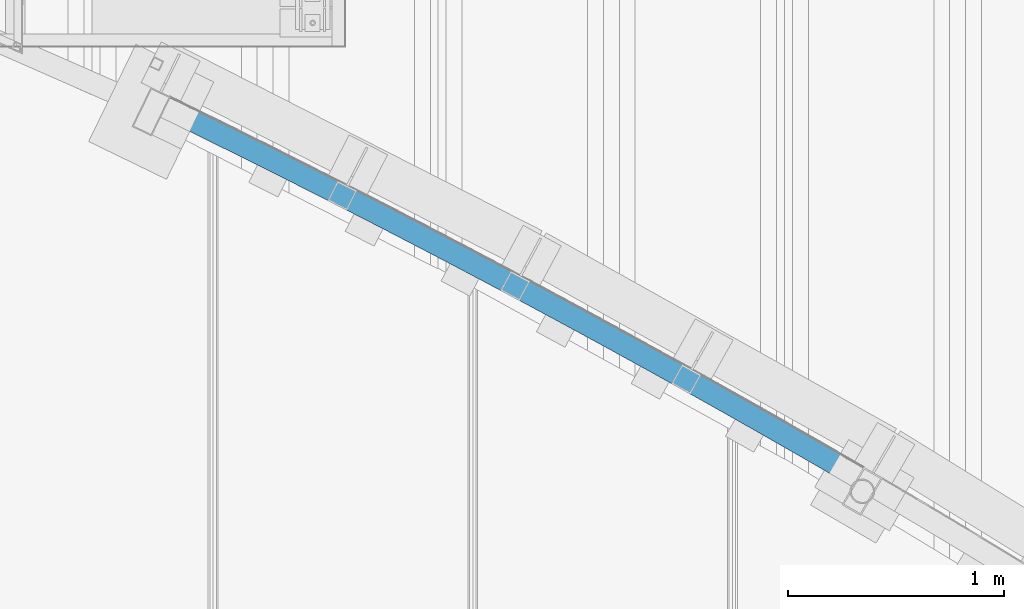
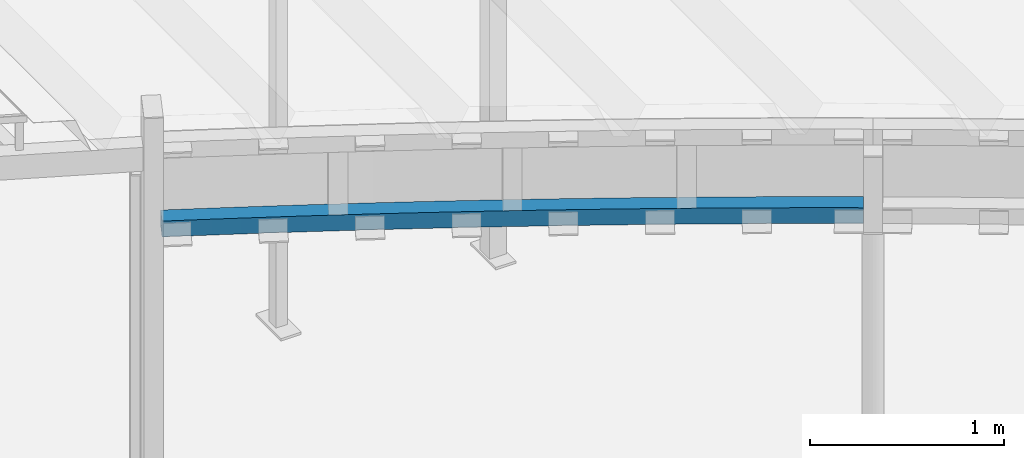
# One storey, part 19 of 98: 1 beam.
"""IFC2X3 building model written with IfcOpenShell, lengths in millimetres."""

from ifc_helpers import new_model, entity, si_unit, converted_unit, derived_unit, direction, frame, origin_with_axes, place, context, subcontext, project, spatial, faceted_brep, material, type_object, element, save


model = new_model("IFC2X3")

# Units and contexts
model_context = context("Model", 3, precision=0.01, world=frame((0.0, 4.29681676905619e-09, 0.0)), true_north=direction((4.01073788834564e-13, 1.0)))
plan_context = context("Plan", 3, precision=0.01, world=frame((0.0, 4.29681676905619e-09, 0.0)), true_north=direction((4.01073788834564e-13, 1.0)))
body_context = subcontext(model_context, "Body", "Model", "MODEL_VIEW")
ifc_project = project(units=[converted_unit("PLANEANGLEUNIT", "DEGREE", entity("IfcPositiveLengthMeasure", 0.0174532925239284), si_unit("PLANEANGLEUNIT", "RADIAN"), dimensions=[0, 0, 0, 0, 0, 0, 0]), si_unit("AREAUNIT", "SQUARE_METRE"), si_unit("LENGTHUNIT", "METRE", prefix="MILLI"), si_unit("MASSUNIT", "GRAM", prefix="KILO"), si_unit("POWERUNIT", "WATT"), si_unit("PRESSUREUNIT", "PASCAL"), si_unit("FORCEUNIT", "NEWTON", prefix="KILO"), si_unit("ELECTRICCURRENTUNIT", "AMPERE"), si_unit("THERMODYNAMICTEMPERATUREUNIT", "DEGREE_CELSIUS"), si_unit("TIMEUNIT", "SECOND"), si_unit("VOLUMEUNIT", "CUBIC_METRE"), derived_unit("LINEARVELOCITYUNIT", [(si_unit("LENGTHUNIT", "METRE"), 1), (si_unit("TIMEUNIT", "SECOND"), -1)]), derived_unit("VOLUMETRICFLOWRATEUNIT", [(si_unit("VOLUMEUNIT", "CUBIC_METRE"), 1), (si_unit("TIMEUNIT", "SECOND"), -1)]), derived_unit("THERMALTRANSMITTANCEUNIT", [(si_unit("POWERUNIT", "WATT"), 1), (si_unit("THERMODYNAMICTEMPERATUREUNIT", "KELVIN"), -1), (si_unit("AREAUNIT", "SQUARE_METRE"), -1)])], contexts=[model_context, plan_context])

# Site, building, storey
site_placement = place(None, frame((0.0, -4.29681676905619e-09, 0.0), z_axis=(0.0, 0.0, 1.0), x_axis=(1.0, 0.0, 0.0)))
site = spatial("IfcSite", under=ifc_project, at=site_placement, Name="Gardermoen", CompositionType="ELEMENT")
building_placement = place(site_placement, frame((0.0, 4.29681676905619e-09, 0.0), z_axis=(0.0, 0.0, 1.0), x_axis=(1.0, 0.0, 0.0)))
building = spatial("IfcBuilding", under=site, at=building_placement, Name="TS", CompositionType="ELEMENT")
storey_placement = place(building_placement, origin_with_axes())
storey = spatial("IfcBuildingStorey", under=building, at=storey_placement, Name="D", CompositionType="ELEMENT", Elevation=0.0)

# Beam
ifc_material = material(Name="STEEL/S355")
beam_type = type_object("IfcBeamType", Name="RHS100*6.3", PredefinedType="NOTDEFINED")
beam_placement = place(storey_placement, frame((516734.114608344, 412371.056030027, 206555.0), z_axis=(0.0, 0.0, 1.0), x_axis=(0.881699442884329, -0.471811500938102, 0.0)))
element("IfcBeam", 1, at=beam_placement, inside=storey, type_object=beam_type, material=ifc_material, Name="STÅLBJELKE", ObjectType="RHS100*6.3", context=body_context, shape_type="Brep", body=[
    faceted_brep([(78.3006283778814, -47.0121591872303, -50.0), (74.518780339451, 52.9163033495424, -50.0), (151.011860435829, 55.7508622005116, -50.0), (154.636203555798, -44.1834369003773, -50.0), (227.509281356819, 58.4648508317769, -50.0), (230.976108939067, -41.475036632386, -50.0), (304.010884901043, 61.0582649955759, -50.0), (307.320188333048, -38.8869625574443, -50.0), (380.516481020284, 63.5310982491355, -50.0), (383.668252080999, -36.419221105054, -50.0), (457.025879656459, 65.8833444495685, -50.0), (460.020110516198, -34.0718184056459, -50.0), (533.538890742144, 68.1149977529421, -50.0), (536.375573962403, -31.8447602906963, -50.0), (610.055324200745, 70.2260526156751, -50.0), (612.734452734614, -29.7380522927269, -50.0), (686.574989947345, 72.2165037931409, -50.0), (689.096557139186, -27.7516996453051, -50.0), (763.097697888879, 74.0863463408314, -50.0), (765.461697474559, -25.8857072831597, -50.0), (839.623257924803, 75.835575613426, -50.0), (841.829684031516, -24.1400798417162, -50.0), (916.151479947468, 77.4641872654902, -50.0), (918.200327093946, -22.5148216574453, -50.0), (992.682173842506, 78.9721772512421, -50.0), (994.573436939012, -21.0099367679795, -50.0), (1069.21514948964, 80.3595418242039, -50.0), (1070.94882383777, -19.6254289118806, -50.0), (1145.75021676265, 81.6262775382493, -50.0), (1147.32629805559, -18.3613015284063, -50.0), (1222.28718553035, 82.7723812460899, -50.0), (1223.70566985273, -17.2175577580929, -50.0), (1298.82586565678, 83.7978501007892, -50.0), (1300.08674948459, -16.194200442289, -50.0), (1375.36606700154, 84.702681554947, -50.0), (1376.46934720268, -15.2912321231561, -50.0), (1451.90759942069, 85.4868733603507, -50.0), (1452.85327325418, -14.5086550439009, -50.0), (1528.45027276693, 86.1504235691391, -50.0), (1529.23833788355, -13.8464711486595, -50.0), (1604.99389688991, 86.6933305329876, -50.0), (1605.62435133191, -13.3046820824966, -50.0), (1681.53828163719, 87.1155929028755, -50.0), (1682.01112383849, -12.8832891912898, -50.0), (1758.08323685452, 87.4172096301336, -50.0), (1758.39846564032, -12.5822935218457, -50.0), (1834.62857238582, 87.59817996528, -50.0), (1834.78618697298, -12.4016958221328, -50.0), (1911.17409807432, 87.6585034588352, -50.0), (1911.17409807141, -12.3414965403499, -50.0), (1987.71962376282, 87.5981799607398, -50.0), (1987.56200916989, -12.4016958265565, -50.0), (2064.26495929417, 87.4172096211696, -50.0), (2063.94973050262, -12.5822935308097, -50.0), (2140.80991451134, 87.1155928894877, -50.0), (2140.33707230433, -12.8832892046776, -50.0), (2217.35429925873, 86.6933305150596, -50.0), (2216.72384481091, -13.3046821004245, -50.0), (2293.89792338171, 86.1504235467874, -50.0), (2293.10985825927, -13.8464711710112, -50.0), (2370.44059672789, 85.4868733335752, -50.0), (2369.49492288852, -14.5086550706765, -50.0), (2446.98212914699, 84.7026815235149, -50.0), (2445.87884894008, -15.291232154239, -50.0), (2523.52233049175, 83.7978500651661, -50.0), (2522.261446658, -16.1942004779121, -50.0), (2600.06101061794, 82.7723812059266, -50.0), (2598.64252628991, -17.2175577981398, -50.0), (2676.59797938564, 81.6262774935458, -50.0), (2675.02189808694, -18.3613015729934, -50.0), (2753.13304665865, 80.3595417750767, -50.0), (2751.39937230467, -19.6254289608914, -50.0), (2829.66602230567, 78.9721771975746, -50.0), (2827.77475920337, -21.0099368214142, -50.0), (2906.19671620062, 77.4641872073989, -50.0), (2904.14786904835, -22.5148217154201, -50.0), (2982.7249382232, 75.835575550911, -50.0), (2980.51851211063, -24.1400799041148, -50.0), (3059.25049825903, 74.0863462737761, -50.0), (3056.88649866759, -25.8857073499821, -50.0), (3135.77320620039, 72.2165037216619, -50.0), (3133.25163900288, -27.7516997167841, -50.0), (3212.29287194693, 70.2260525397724, -50.0), (3209.61374340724, -29.7380523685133, -50.0), (3288.80930540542, 68.1149976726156, -50.0), (3285.97262217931, -31.8447603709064, -50.0), (3365.32231649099, 65.8833443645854, -50.0), (3362.32808562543, -34.0718184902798, -50.0), (3441.83171512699, 63.531098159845, -50.0), (3438.67994406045, -36.4192211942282, -50.0), (3518.33731124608, 61.0582649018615, -50.0), (3515.02800780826, -38.8869626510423, -50.0), (3594.83891479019, 58.4648507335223, -50.0), (3591.37208720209, -41.4750367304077, -50.0), (3671.33633571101, 55.7508620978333, -50.0), (3667.71199258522, -44.1834370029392, -50.0), (3594.83891479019, 58.4648507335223, 50.0), (3671.33633571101, 55.7508620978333, 50.0), (3518.33731124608, 61.0582649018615, 50.0), (3441.83171512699, 63.531098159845, 50.0), (3365.32231649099, 65.8833443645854, 50.0), (3288.80930540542, 68.1149976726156, 50.0), (3212.29287194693, 70.2260525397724, 50.0), (3135.77320620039, 72.2165037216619, 50.0), (3059.25049825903, 74.0863462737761, 50.0), (2982.7249382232, 75.835575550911, 50.0), (2906.19671620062, 77.4641872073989, 50.0), (2829.66602230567, 78.9721771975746, 50.0), (2753.13304665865, 80.3595417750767, 50.0), (2676.59797938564, 81.6262774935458, 50.0), (2600.06101061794, 82.7723812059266, 50.0), (2523.52233049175, 83.7978500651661, 50.0), (2446.98212914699, 84.7026815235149, 50.0), (2370.44059672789, 85.4868733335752, 50.0), (2293.89792338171, 86.1504235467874, 50.0), (2217.35429925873, 86.6933305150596, 50.0), (2140.80991451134, 87.1155928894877, 50.0), (2064.26495929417, 87.4172096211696, 50.0), (1987.71962376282, 87.5981799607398, 50.0), (1911.17409807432, 87.6585034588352, 50.0), (1834.62857238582, 87.59817996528, 50.0), (1758.08323685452, 87.4172096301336, 50.0), (1681.53828163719, 87.1155929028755, 50.0), (1604.99389688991, 86.6933305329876, 50.0), (1528.45027276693, 86.1504235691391, 50.0), (1451.90759942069, 85.4868733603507, 50.0), (1375.36606700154, 84.702681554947, 50.0), (1298.82586565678, 83.7978501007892, 50.0), (1222.28718553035, 82.7723812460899, 50.0), (1145.75021676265, 81.6262775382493, 50.0), (1069.21514948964, 80.3595418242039, 50.0), (992.682173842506, 78.9721772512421, 50.0), (916.151479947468, 77.4641872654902, 50.0), (839.623257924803, 75.835575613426, 50.0), (763.097697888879, 74.0863463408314, 50.0), (686.574989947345, 72.2165037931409, 50.0), (610.055324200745, 70.2260526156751, 50.0), (533.538890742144, 68.1149977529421, 50.0), (457.025879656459, 65.8833444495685, 50.0), (380.516481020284, 63.5310982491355, 50.0), (304.010884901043, 61.0582649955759, 50.0), (227.509281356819, 58.4648508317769, 50.0), (151.011860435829, 55.7508622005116, 50.0), (74.518780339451, 52.9163033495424, 50.0), (78.3006283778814, -47.0121591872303, 50.0), (154.636203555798, -44.1834369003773, 50.0), (230.976108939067, -41.475036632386, 50.0), (307.320188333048, -38.8869625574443, 50.0), (383.668252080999, -36.419221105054, 50.0), (460.020110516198, -34.0718184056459, 50.0), (536.375573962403, -31.8447602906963, 50.0), (612.734452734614, -29.7380522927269, 50.0), (689.096557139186, -27.7516996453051, 50.0), (765.461697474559, -25.8857072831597, 50.0), (841.829684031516, -24.1400798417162, 50.0), (918.200327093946, -22.5148216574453, 50.0), (994.573436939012, -21.0099367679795, 50.0), (1070.94882383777, -19.6254289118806, 50.0), (1147.32629805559, -18.3613015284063, 50.0), (1223.70566985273, -17.2175577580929, 50.0), (1300.08674948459, -16.194200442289, 50.0), (1376.46934720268, -15.2912321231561, 50.0), (1452.85327325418, -14.5086550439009, 50.0), (1529.23833788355, -13.8464711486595, 50.0), (1605.62435133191, -13.3046820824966, 50.0), (1682.01112383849, -12.8832891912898, 50.0), (1758.39846564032, -12.5822935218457, 50.0), (1834.78618697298, -12.4016958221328, 50.0), (1911.17409807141, -12.3414965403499, 50.0), (1987.56200916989, -12.4016958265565, 50.0), (2063.94973050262, -12.5822935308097, 50.0), (2140.33707230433, -12.8832892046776, 50.0), (2216.72384481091, -13.3046821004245, 50.0), (2293.10985825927, -13.8464711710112, 50.0), (2369.49492288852, -14.5086550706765, 50.0), (2445.87884894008, -15.291232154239, 50.0), (2522.261446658, -16.1942004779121, 50.0), (2598.64252628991, -17.2175577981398, 50.0), (2675.02189808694, -18.3613015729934, 50.0), (2751.39937230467, -19.6254289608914, 50.0), (2827.77475920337, -21.0099368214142, 50.0), (2904.14786904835, -22.5148217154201, 50.0), (2980.51851211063, -24.1400799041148, 50.0), (3056.88649866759, -25.8857073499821, 50.0), (3133.25163900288, -27.7516997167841, 50.0), (3209.61374340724, -29.7380523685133, 50.0), (3285.97262217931, -31.8447603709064, 50.0), (3362.32808562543, -34.0718184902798, 50.0), (3438.67994406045, -36.4192211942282, 50.0), (3515.02800780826, -38.8869626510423, 50.0), (3591.37208720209, -41.4750367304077, 50.0), (3667.71199258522, -44.1834370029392, 50.0), (3676.63476260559, -44.5140826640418, 50.0), (3680.2311997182, 55.4212505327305, 50.0), (3680.2311997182, 55.4212505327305, -50.0), (3676.63476260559, -44.5140826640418, -50.0), (51.9561177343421, -48.0299727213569, 50.0), (51.9561177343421, -48.0299727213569, -50.0), (48.0319689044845, 51.8929920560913, -50.0), (48.0319689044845, 51.8929920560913, 50.0), (74.7570367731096, 46.6208100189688, 43.6999998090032), (78.0623719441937, -40.7166658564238, 43.6999998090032), (51.708896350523, -41.7348257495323, 43.6999998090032), (48.2791902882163, 45.5978450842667, 43.6999998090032), (78.0623719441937, -40.7166658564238, -43.6999998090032), (74.7570367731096, 46.6208100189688, -43.6999998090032), (48.2791902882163, 45.5978450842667, -43.6999998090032), (51.708896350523, -41.7348257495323, -43.6999998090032), (151.240194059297, 49.4550011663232, -43.6999998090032), (151.240194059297, 49.4550011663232, 43.6999998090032), (154.407869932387, -37.8875758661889, 43.6999998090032), (154.407869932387, -37.8875758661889, -43.6999998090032), (230.757698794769, -35.1788235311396, -43.6999998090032), (227.727691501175, 52.1686377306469, -43.6999998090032), (227.727691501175, 52.1686377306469, 43.6999998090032), (230.757698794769, -35.1788235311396, 43.6999998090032), (307.111702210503, -32.5904130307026, 43.6999998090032), (307.111702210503, -32.5904130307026, -43.6999998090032), (304.219371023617, 54.7617154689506, -43.6999998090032), (304.219371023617, 54.7617154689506, 43.6999998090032), (380.715042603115, 57.2342279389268, 43.6999998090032), (383.469690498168, -30.1223507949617, 43.6999998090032), (383.469690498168, -30.1223507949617, -43.6999998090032), (380.715042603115, 57.2342279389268, -43.6999998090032), (457.214516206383, 59.586168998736, -43.6999998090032), (457.214516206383, 59.586168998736, 43.6999998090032), (459.831473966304, -27.7746429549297, 43.6999998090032), (459.831473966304, -27.7746429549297, -43.6999998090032), (536.196862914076, -25.5472953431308, -43.6999998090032), (533.717601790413, 61.8175328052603, -43.6999998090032), (533.717601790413, 61.8175328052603, 43.6999998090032), (536.196862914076, -25.5472953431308, 43.6999998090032), (612.565667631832, -23.4403134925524, 43.6999998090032), (612.565667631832, -23.4403134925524, -43.6999998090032), (610.224109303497, 63.9283138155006, -43.6999998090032), (610.224109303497, 63.9283138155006, 43.6999998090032), (686.733848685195, 65.9185067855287, 43.6999998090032), (688.937698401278, -21.4537026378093, 43.6999998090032), (688.937698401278, -21.4537026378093, -43.6999998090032), (686.733848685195, 65.9185067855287, -43.6999998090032), (763.246629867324, 67.7881067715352, -43.6999998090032), (763.246629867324, 67.7881067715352, 43.6999998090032), (765.312765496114, -19.5874677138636, 43.6999998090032), (765.312765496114, -19.5874677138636, -43.6999998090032), (841.690679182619, -17.8416133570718, -43.6999998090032), (839.762262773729, 69.537109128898, -43.6999998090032), (839.762262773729, 69.537109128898, 43.6999998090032), (841.690679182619, -17.8416133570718, 43.6999998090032), (918.071249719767, -16.2161439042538, 43.6999998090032), (918.071249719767, -16.2161439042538, -43.6999998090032), (916.280557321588, 71.1655095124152, -43.6999998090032), (916.280557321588, 71.1655095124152, 43.6999998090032), (992.801323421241, 72.6733038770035, 43.6999998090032), (994.454287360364, -14.7110633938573, 43.6999998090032), (994.454287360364, -14.7110633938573, -43.6999998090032), (992.801323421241, 72.6733038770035, -43.6999998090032), (1069.32437097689, 74.0604884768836, -43.6999998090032), (1069.32437097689, 74.0604884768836, 43.6999998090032), (1070.83960235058, -13.3263755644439, 43.6999998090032), (1070.83960235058, -13.3263755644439, -43.6999998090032), (1147.22700493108, -12.0620838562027, -43.6999998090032), (1145.84950988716, 75.3270598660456, -43.6999998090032), (1145.84950988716, 75.3270598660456, 43.6999998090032), (1147.22700493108, -12.0620838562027, 43.6999998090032), (1223.61630533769, -10.9181914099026, 43.6999998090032), (1223.61630533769, -10.9181914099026, -43.6999998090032), (1222.37655004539, 76.4730148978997, -43.6999998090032), (1222.37655004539, 76.4730148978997, 43.6999998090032), (1298.90530134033, 77.4983507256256, 43.6999998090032), (1300.00731380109, -9.89470106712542, 43.6999998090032), (1300.00731380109, -9.89470106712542, -43.6999998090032), (1298.90530134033, 77.4983507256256, -43.6999998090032), (1375.43557365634, 78.4030648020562, -43.6999998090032), (1375.43557365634, 78.4030648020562, 43.6999998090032), (1376.39984054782, -8.99161537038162, 43.6999998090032), (1376.39984054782, -8.99161537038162, -43.6999998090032), (1452.79369580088, -8.20893656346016, -43.6999998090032), (1451.96717687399, 79.1871548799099, -43.6999998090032), (1451.96717687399, 79.1871548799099, 43.6999998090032), (1452.79369580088, -8.20893656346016, 43.6999998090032), (1529.18868977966, -7.5466665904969, 43.6999998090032), (1529.18868977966, -7.5466665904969, -43.6999998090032), (1528.49992087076, 79.8506190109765, -43.6999998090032), (1528.49992087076, 79.8506190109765, 43.6999998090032), (1605.03361552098, 80.3934555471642, 43.6999998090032), (1605.58463270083, -7.00480709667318, 43.6999998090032), (1605.58463270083, -7.00480709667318, -43.6999998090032), (1605.03361552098, 80.3934555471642, -43.6999998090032), (1681.56807069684, 80.8156631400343, -43.6999998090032), (1681.56807069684, 80.8156631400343, 43.6999998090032), (1681.98133477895, -6.5833594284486, 43.6999998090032), (1681.98133477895, -6.5833594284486, -43.6999998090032), (1758.37860622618, -6.28232463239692, -43.6999998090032), (1758.10309626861, 81.117240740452, -43.6999998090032), (1758.10309626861, 81.117240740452, 43.6999998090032), (1758.37860622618, -6.28232463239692, 43.6999998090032), (1834.77625725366, -6.10170345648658, 43.6999998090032), (1834.77625725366, -6.10170345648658, -43.6999998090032), (1834.63850210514, 81.2981875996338, -43.6999998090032), (1834.63850210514, 81.2981875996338, 43.6999998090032), (1911.1740980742, 81.3585032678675, 43.6999998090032), (1911.17409807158, -6.04149634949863, 43.6999998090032), (1911.17409807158, -6.04149634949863, -43.6999998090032), (1911.1740980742, 81.3585032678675, -43.6999998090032), (1987.70969404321, 81.29818759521, -43.6999998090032), (1987.70969404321, 81.29818759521, 43.6999998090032), (1987.57193888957, -6.10170346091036, 43.6999998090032), (1987.57193888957, -6.10170346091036, -43.6999998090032), (2063.96958991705, -6.28232464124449, -43.6999998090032), (2064.24509987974, 81.1172407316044, -43.6999998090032), (2064.24509987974, 81.1172407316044, 43.6999998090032), (2063.96958991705, -6.28232464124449, 43.6999998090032), (2140.36686136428, -6.58335944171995, 43.6999998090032), (2140.36686136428, -6.58335944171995, -43.6999998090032), (2140.78012545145, 80.8156631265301, -43.6999998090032), (2140.78012545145, 80.8156631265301, 43.6999998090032), (2217.31458062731, 80.3934555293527, 43.6999998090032), (2216.76356344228, -7.00480711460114, 43.6999998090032), (2216.76356344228, -7.00480711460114, -43.6999998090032), (2217.31458062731, 80.3934555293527, -43.6999998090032), (2293.84827527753, 79.8506189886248, -43.6999998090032), (2293.84827527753, 79.8506189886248, 43.6999998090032), (2293.1595063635, -7.54666661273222, 43.6999998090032), (2293.1595063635, -7.54666661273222, -43.6999998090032), (2369.55450034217, -8.20893659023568, -43.6999998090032), (2370.38101927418, 79.187154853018, -43.6999998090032), (2370.38101927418, 79.187154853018, 43.6999998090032), (2369.55450034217, -8.20893659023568, 43.6999998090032), (2445.94835559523, -8.99161540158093, 43.6999998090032), (2445.94835559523, -8.99161540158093, -43.6999998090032), (2446.91262249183, 78.4030647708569, -43.6999998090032), (2446.91262249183, 78.4030647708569, 43.6999998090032), (2523.44289480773, 77.4983506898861, 43.6999998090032), (2522.3408823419, -9.89470110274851, 43.6999998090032), (2522.3408823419, -9.89470110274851, -43.6999998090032), (2523.44289480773, 77.4983506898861, -43.6999998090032), (2599.97164610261, 76.47301485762, -43.6999998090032), (2599.97164610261, 76.47301485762, 43.6999998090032), (2598.73189080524, -10.9181914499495, 43.6999998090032), (2598.73189080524, -10.9181914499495, -43.6999998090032), (2675.1211912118, -12.0620839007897, -43.6999998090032), (2676.49868626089, 75.3270598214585, -43.6999998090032), (2676.49868626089, 75.3270598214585, 43.6999998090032), (2675.1211912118, -12.0620839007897, 43.6999998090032), (2751.50859379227, -13.3263756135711, 43.6999998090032), (2751.50859379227, -13.3263756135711, -43.6999998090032), (2753.023825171, 74.0604884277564, -43.6999998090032), (2753.023825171, 74.0604884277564, 43.6999998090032), (2829.54687272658, 72.6733038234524, 43.6999998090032), (2827.8939087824, -14.711063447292, 43.6999998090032), (2827.8939087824, -14.711063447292, -43.6999998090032), (2829.54687272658, 72.6733038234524, -43.6999998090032), (2906.06763882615, 71.1655094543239, -43.6999998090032), (2906.06763882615, 71.1655094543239, 43.6999998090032), (2904.27694642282, -16.2161439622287, 43.6999998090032), (2904.27694642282, -16.2161439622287, -43.6999998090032), (2980.65751695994, -17.8416134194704, -43.6999998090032), (2982.58593337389, 69.5371090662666, -43.6999998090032), (2982.58593337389, 69.5371090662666, 43.6999998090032), (2980.65751695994, -17.8416134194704, 43.6999998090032), (3057.03543064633, -19.5874677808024, 43.6999998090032), (3057.03543064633, -19.5874677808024, -43.6999998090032), (3059.1015662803, 67.7881067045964, -43.6999998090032), (3059.1015662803, 67.7881067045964, 43.6999998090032), (3135.61434746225, 65.9185067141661, 43.6999998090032), (3133.41049774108, -21.4537027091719, 43.6999998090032), (3133.41049774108, -21.4537027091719, -43.6999998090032), (3135.61434746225, 65.9185067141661, -43.6999998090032), (3212.1240868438, 63.9283137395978, -43.6999998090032), (3212.1240868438, 63.9283137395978, 43.6999998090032), (3209.78252851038, -23.4403135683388, 43.6999998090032), (3209.78252851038, -23.4403135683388, -43.6999998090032), (3286.15133322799, -25.5472954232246, -43.6999998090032), (3288.63059435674, 61.8175327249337, -43.6999998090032), (3288.63059435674, 61.8175327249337, 43.6999998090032), (3286.15133322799, -25.5472954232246, 43.6999998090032), (3362.5167221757, -27.7746430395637, 43.6999998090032), (3362.5167221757, -27.7746430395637, -43.6999998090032), (3365.13367994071, 59.5861689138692, -43.6999998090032), (3365.13367994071, 59.5861689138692, 43.6999998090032), (3441.63315354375, 57.2342278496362, 43.6999998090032), (3438.87850564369, -30.1223508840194, 43.6999998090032), (3438.87850564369, -30.1223508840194, -43.6999998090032), (3441.63315354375, 57.2342278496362, -43.6999998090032), (3518.12882512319, 54.7617153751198, -43.6999998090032), (3518.12882512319, 54.7617153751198, 43.6999998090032), (3515.23649393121, -32.5904131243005, 43.6999998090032), (3515.23649393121, -32.5904131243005, -43.6999998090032), (3591.59049734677, -35.1788236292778, -43.6999998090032), (3594.62050464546, 52.1686376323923, -43.6999998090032), (3594.62050464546, 52.1686376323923, 43.6999998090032), (3591.59049734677, -35.1788236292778, 43.6999998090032), (3667.94032620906, -37.8875759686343, 43.6999998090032), (3667.94032620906, -37.8875759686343, -43.6999998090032), (3671.10800208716, 49.4550010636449, -43.6999998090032), (3671.10800208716, 49.4550010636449, 43.6999998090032), (3680.00462417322, 49.1253243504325, 43.6999998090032), (3676.86133815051, -38.2181564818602, 43.6999998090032), (3676.86133815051, -38.2181564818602, -43.6999998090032), (3680.00462417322, 49.1253243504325, -43.6999998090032)], [[[0, 1, 2, 3]], [[3, 2, 4, 5]], [[5, 4, 6, 7]], [[7, 6, 8, 9]], [[9, 8, 10, 11]], [[11, 10, 12, 13]], [[13, 12, 14, 15]], [[15, 14, 16, 17]], [[17, 16, 18, 19]], [[19, 18, 20, 21]], [[21, 20, 22, 23]], [[23, 22, 24, 25]], [[25, 24, 26, 27]], [[27, 26, 28, 29]], [[29, 28, 30, 31]], [[31, 30, 32, 33]], [[33, 32, 34, 35]], [[35, 34, 36, 37]], [[37, 36, 38, 39]], [[39, 38, 40, 41]], [[41, 40, 42, 43]], [[43, 42, 44, 45]], [[45, 44, 46, 47]], [[47, 46, 48, 49]], [[49, 48, 50, 51]], [[51, 50, 52, 53]], [[53, 52, 54, 55]], [[55, 54, 56, 57]], [[57, 56, 58, 59]], [[59, 58, 60, 61]], [[61, 60, 62, 63]], [[63, 62, 64, 65]], [[65, 64, 66, 67]], [[67, 66, 68, 69]], [[69, 68, 70, 71]], [[71, 70, 72, 73]], [[73, 72, 74, 75]], [[75, 74, 76, 77]], [[77, 76, 78, 79]], [[79, 78, 80, 81]], [[81, 80, 82, 83]], [[83, 82, 84, 85]], [[85, 84, 86, 87]], [[87, 86, 88, 89]], [[89, 88, 90, 91]], [[91, 90, 92, 93]], [[93, 92, 94, 95]], [[92, 96, 97, 94]], [[90, 98, 96, 92]], [[88, 99, 98, 90]], [[86, 100, 99, 88]], [[84, 101, 100, 86]], [[82, 102, 101, 84]], [[80, 103, 102, 82]], [[78, 104, 103, 80]], [[76, 105, 104, 78]], [[74, 106, 105, 76]], [[72, 107, 106, 74]], [[70, 108, 107, 72]], [[68, 109, 108, 70]], [[66, 110, 109, 68]], [[64, 111, 110, 66]], [[62, 112, 111, 64]], [[60, 113, 112, 62]], [[58, 114, 113, 60]], [[56, 115, 114, 58]], [[54, 116, 115, 56]], [[52, 117, 116, 54]], [[50, 118, 117, 52]], [[48, 119, 118, 50]], [[46, 120, 119, 48]], [[44, 121, 120, 46]], [[42, 122, 121, 44]], [[40, 123, 122, 42]], [[38, 124, 123, 40]], [[36, 125, 124, 38]], [[34, 126, 125, 36]], [[32, 127, 126, 34]], [[30, 128, 127, 32]], [[28, 129, 128, 30]], [[26, 130, 129, 28]], [[24, 131, 130, 26]], [[22, 132, 131, 24]], [[20, 133, 132, 22]], [[18, 134, 133, 20]], [[16, 135, 134, 18]], [[14, 136, 135, 16]], [[12, 137, 136, 14]], [[10, 138, 137, 12]], [[8, 139, 138, 10]], [[6, 140, 139, 8]], [[4, 141, 140, 6]], [[2, 142, 141, 4]], [[1, 143, 142, 2]], [[143, 144, 145, 142]], [[142, 145, 146, 141]], [[141, 146, 147, 140]], [[140, 147, 148, 139]], [[139, 148, 149, 138]], [[138, 149, 150, 137]], [[137, 150, 151, 136]], [[136, 151, 152, 135]], [[135, 152, 153, 134]], [[134, 153, 154, 133]], [[133, 154, 155, 132]], [[132, 155, 156, 131]], [[131, 156, 157, 130]], [[130, 157, 158, 129]], [[129, 158, 159, 128]], [[128, 159, 160, 127]], [[127, 160, 161, 126]], [[126, 161, 162, 125]], [[125, 162, 163, 124]], [[124, 163, 164, 123]], [[123, 164, 165, 122]], [[122, 165, 166, 121]], [[121, 166, 167, 120]], [[120, 167, 168, 119]], [[119, 168, 169, 118]], [[118, 169, 170, 117]], [[117, 170, 171, 116]], [[116, 171, 172, 115]], [[115, 172, 173, 114]], [[114, 173, 174, 113]], [[113, 174, 175, 112]], [[112, 175, 176, 111]], [[111, 176, 177, 110]], [[110, 177, 178, 109]], [[109, 178, 179, 108]], [[108, 179, 180, 107]], [[107, 180, 181, 106]], [[106, 181, 182, 105]], [[105, 182, 183, 104]], [[104, 183, 184, 103]], [[103, 184, 185, 102]], [[102, 185, 186, 101]], [[101, 186, 187, 100]], [[100, 187, 188, 99]], [[99, 188, 189, 98]], [[98, 189, 190, 96]], [[96, 190, 191, 97]], [[97, 191, 192, 193]], [[94, 97, 193, 194]], [[95, 94, 194, 195]], [[191, 95, 195, 192]], [[190, 93, 95, 191]], [[189, 91, 93, 190]], [[188, 89, 91, 189]], [[187, 87, 89, 188]], [[186, 85, 87, 187]], [[185, 83, 85, 186]], [[184, 81, 83, 185]], [[183, 79, 81, 184]], [[182, 77, 79, 183]], [[181, 75, 77, 182]], [[180, 73, 75, 181]], [[179, 71, 73, 180]], [[178, 69, 71, 179]], [[177, 67, 69, 178]], [[176, 65, 67, 177]], [[175, 63, 65, 176]], [[174, 61, 63, 175]], [[173, 59, 61, 174]], [[172, 57, 59, 173]], [[171, 55, 57, 172]], [[170, 53, 55, 171]], [[169, 51, 53, 170]], [[168, 49, 51, 169]], [[167, 47, 49, 168]], [[166, 45, 47, 167]], [[165, 43, 45, 166]], [[164, 41, 43, 165]], [[163, 39, 41, 164]], [[162, 37, 39, 163]], [[161, 35, 37, 162]], [[160, 33, 35, 161]], [[159, 31, 33, 160]], [[158, 29, 31, 159]], [[157, 27, 29, 158]], [[156, 25, 27, 157]], [[155, 23, 25, 156]], [[154, 21, 23, 155]], [[153, 19, 21, 154]], [[152, 17, 19, 153]], [[151, 15, 17, 152]], [[150, 13, 15, 151]], [[149, 11, 13, 150]], [[148, 9, 11, 149]], [[147, 7, 9, 148]], [[146, 5, 7, 147]], [[145, 3, 5, 146]], [[144, 0, 3, 145]], [[0, 144, 196, 197]], [[1, 0, 197, 198]], [[143, 1, 198, 199]], [[144, 143, 199, 196]], [[200, 201, 202, 203]], [[204, 205, 206, 207]], [[201, 204, 207, 202]], [[198, 197, 196, 199], [206, 203, 202, 207]], [[205, 200, 203, 206]], [[200, 205, 208, 209]], [[201, 200, 209, 210]], [[204, 201, 210, 211]], [[205, 204, 211, 208]], [[208, 211, 212, 213]], [[209, 208, 213, 214]], [[210, 209, 214, 215]], [[211, 210, 215, 212]], [[212, 215, 216, 217]], [[213, 212, 217, 218]], [[214, 213, 218, 219]], [[215, 214, 219, 216]], [[216, 219, 220, 221]], [[217, 216, 221, 222]], [[218, 217, 222, 223]], [[219, 218, 223, 220]], [[220, 223, 224, 225]], [[221, 220, 225, 226]], [[222, 221, 226, 227]], [[223, 222, 227, 224]], [[224, 227, 228, 229]], [[225, 224, 229, 230]], [[226, 225, 230, 231]], [[227, 226, 231, 228]], [[228, 231, 232, 233]], [[229, 228, 233, 234]], [[230, 229, 234, 235]], [[231, 230, 235, 232]], [[232, 235, 236, 237]], [[233, 232, 237, 238]], [[234, 233, 238, 239]], [[235, 234, 239, 236]], [[236, 239, 240, 241]], [[237, 236, 241, 242]], [[238, 237, 242, 243]], [[239, 238, 243, 240]], [[240, 243, 244, 245]], [[241, 240, 245, 246]], [[242, 241, 246, 247]], [[243, 242, 247, 244]], [[244, 247, 248, 249]], [[245, 244, 249, 250]], [[246, 245, 250, 251]], [[247, 246, 251, 248]], [[248, 251, 252, 253]], [[249, 248, 253, 254]], [[250, 249, 254, 255]], [[251, 250, 255, 252]], [[252, 255, 256, 257]], [[253, 252, 257, 258]], [[254, 253, 258, 259]], [[255, 254, 259, 256]], [[256, 259, 260, 261]], [[257, 256, 261, 262]], [[258, 257, 262, 263]], [[259, 258, 263, 260]], [[260, 263, 264, 265]], [[261, 260, 265, 266]], [[262, 261, 266, 267]], [[263, 262, 267, 264]], [[264, 267, 268, 269]], [[265, 264, 269, 270]], [[266, 265, 270, 271]], [[267, 266, 271, 268]], [[268, 271, 272, 273]], [[269, 268, 273, 274]], [[270, 269, 274, 275]], [[271, 270, 275, 272]], [[272, 275, 276, 277]], [[273, 272, 277, 278]], [[274, 273, 278, 279]], [[275, 274, 279, 276]], [[276, 279, 280, 281]], [[277, 276, 281, 282]], [[278, 277, 282, 283]], [[279, 278, 283, 280]], [[280, 283, 284, 285]], [[281, 280, 285, 286]], [[282, 281, 286, 287]], [[283, 282, 287, 284]], [[284, 287, 288, 289]], [[285, 284, 289, 290]], [[286, 285, 290, 291]], [[287, 286, 291, 288]], [[288, 291, 292, 293]], [[289, 288, 293, 294]], [[290, 289, 294, 295]], [[291, 290, 295, 292]], [[292, 295, 296, 297]], [[293, 292, 297, 298]], [[294, 293, 298, 299]], [[295, 294, 299, 296]], [[296, 299, 300, 301]], [[297, 296, 301, 302]], [[298, 297, 302, 303]], [[299, 298, 303, 300]], [[300, 303, 304, 305]], [[301, 300, 305, 306]], [[302, 301, 306, 307]], [[303, 302, 307, 304]], [[304, 307, 308, 309]], [[305, 304, 309, 310]], [[306, 305, 310, 311]], [[307, 306, 311, 308]], [[308, 311, 312, 313]], [[309, 308, 313, 314]], [[310, 309, 314, 315]], [[311, 310, 315, 312]], [[312, 315, 316, 317]], [[313, 312, 317, 318]], [[314, 313, 318, 319]], [[315, 314, 319, 316]], [[316, 319, 320, 321]], [[317, 316, 321, 322]], [[318, 317, 322, 323]], [[319, 318, 323, 320]], [[320, 323, 324, 325]], [[321, 320, 325, 326]], [[322, 321, 326, 327]], [[323, 322, 327, 324]], [[324, 327, 328, 329]], [[325, 324, 329, 330]], [[326, 325, 330, 331]], [[327, 326, 331, 328]], [[328, 331, 332, 333]], [[329, 328, 333, 334]], [[330, 329, 334, 335]], [[331, 330, 335, 332]], [[332, 335, 336, 337]], [[333, 332, 337, 338]], [[334, 333, 338, 339]], [[335, 334, 339, 336]], [[336, 339, 340, 341]], [[337, 336, 341, 342]], [[338, 337, 342, 343]], [[339, 338, 343, 340]], [[340, 343, 344, 345]], [[341, 340, 345, 346]], [[342, 341, 346, 347]], [[343, 342, 347, 344]], [[344, 347, 348, 349]], [[345, 344, 349, 350]], [[346, 345, 350, 351]], [[347, 346, 351, 348]], [[348, 351, 352, 353]], [[349, 348, 353, 354]], [[350, 349, 354, 355]], [[351, 350, 355, 352]], [[352, 355, 356, 357]], [[353, 352, 357, 358]], [[354, 353, 358, 359]], [[355, 354, 359, 356]], [[356, 359, 360, 361]], [[357, 356, 361, 362]], [[358, 357, 362, 363]], [[359, 358, 363, 360]], [[360, 363, 364, 365]], [[361, 360, 365, 366]], [[362, 361, 366, 367]], [[363, 362, 367, 364]], [[364, 367, 368, 369]], [[365, 364, 369, 370]], [[366, 365, 370, 371]], [[367, 366, 371, 368]], [[368, 371, 372, 373]], [[369, 368, 373, 374]], [[370, 369, 374, 375]], [[371, 370, 375, 372]], [[372, 375, 376, 377]], [[373, 372, 377, 378]], [[374, 373, 378, 379]], [[375, 374, 379, 376]], [[376, 379, 380, 381]], [[377, 376, 381, 382]], [[378, 377, 382, 383]], [[379, 378, 383, 380]], [[380, 383, 384, 385]], [[381, 380, 385, 386]], [[382, 381, 386, 387]], [[383, 382, 387, 384]], [[384, 387, 388, 389]], [[385, 384, 389, 390]], [[386, 385, 390, 391]], [[387, 386, 391, 388]], [[388, 391, 392, 393]], [[389, 388, 393, 394]], [[390, 389, 394, 395]], [[391, 390, 395, 392]], [[392, 395, 396, 397]], [[393, 392, 397, 398]], [[394, 393, 398, 399]], [[395, 394, 399, 396]], [[195, 194, 193, 192], [398, 397, 396, 399]]]),
])

save(model, "model.ifc")
